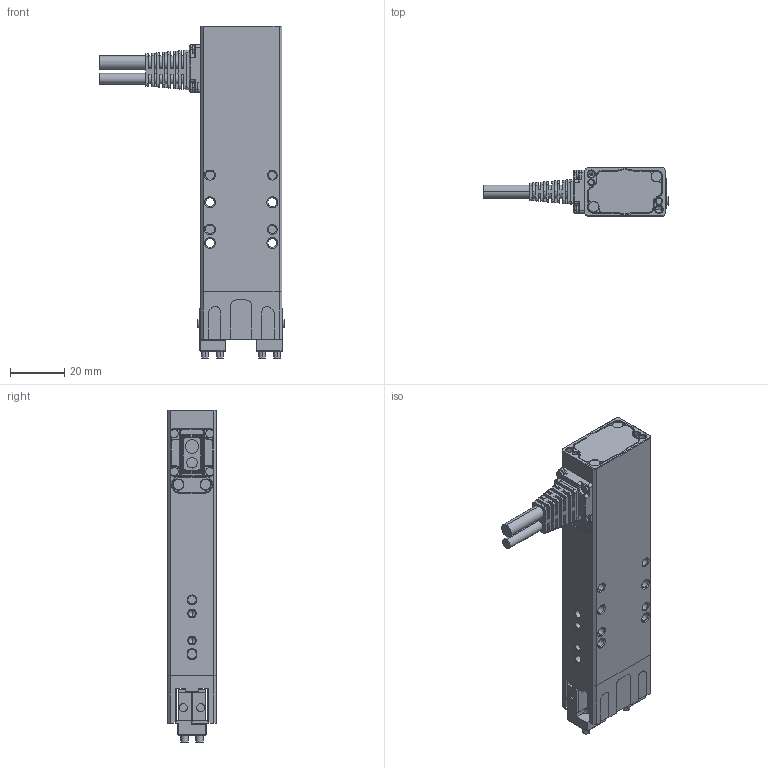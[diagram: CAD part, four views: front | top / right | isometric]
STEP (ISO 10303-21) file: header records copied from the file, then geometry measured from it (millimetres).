
FILE_DESCRIPTION (( 'STEP AP214' ), '1' );
FILE_NAME ('PGE-15-10-W-S.STEP', '2023-07-19T03:53:18', ( '' ), ( '' ), 'SwSTEP 2.0', 'SolidWorks 2020', '' );
FILE_SCHEMA (( 'AUTOMOTIVE_DESIGN' ));
Length unit declared in the file: millimetre
Products named in the file (3): 忒硌價釱; PGE-15-10-W-S; 耜堤俋褲
Assembly tree (3 placements, depth 2):
  PGE-15-10-W-S
    耜堤俋褲
    忒硌價釱  x2
Bounding box: 68 x 18 x 122.4 mm (x, y, z)
Volume: 61859.5 mm3; surface area: 25360.9 mm2
Topology: 28 solids, 28 shells, 1118 faces, 2726 edges, 1697 vertices
Faces by surface type: plane 521, cylinder 385, cone 212
Entity records: 41123 total; most frequent: CARTESIAN_POINT 5715, DIRECTION 5190, ORIENTED_EDGE 4950, EDGE_CURVE 2475, AXIS2_PLACEMENT_3D 1810, VECTOR 1570, LINE 1570, VERTEX_POINT 1565
